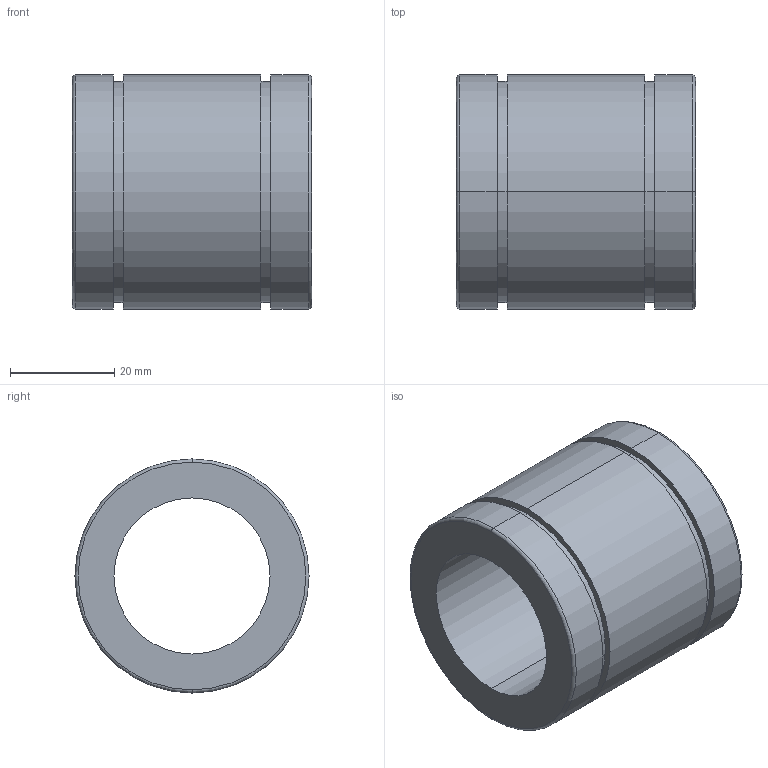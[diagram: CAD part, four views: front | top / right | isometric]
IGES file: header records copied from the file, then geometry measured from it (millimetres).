
Start section: 3D InterOp IGES (Version 21 0 1), Spatial Corp. Copyright (c) 1999-2007.
Global section: file name: N-30VS.igs; native system: Spatial Corp.; preprocessor: 3D InterOp GENERIC/IGES 3.0; author: Noname; organization: Noname; date: 20220311.154200; units: millimetre
Bounding box: 46 x 45 x 45 mm (x, y, z)
Surface area: 13189.9 mm2 (no closed solid volume)
Topology: 0 solids, 0 shells, 22 faces, 88 edges, 88 vertices
Faces by surface type: revolution 16, extrusion 6
